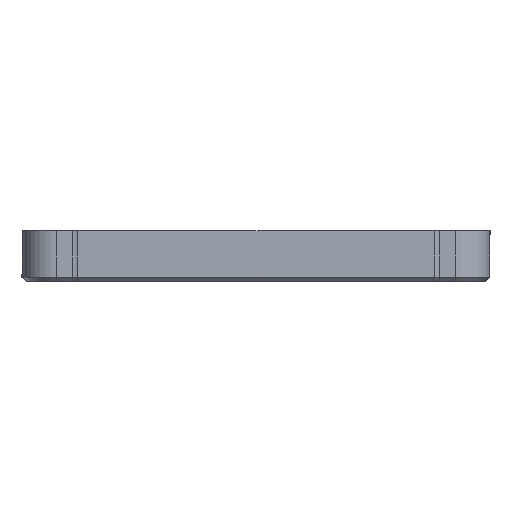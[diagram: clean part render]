
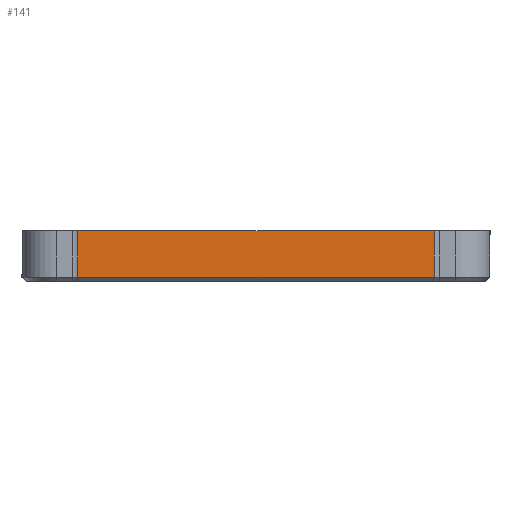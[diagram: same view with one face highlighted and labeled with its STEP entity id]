
A CAD part, front view. The second image highlights one B-rep face of the part: STEP entity #141.
In plain terms, the highlighted planar face has unit normal (0, -1, 0).
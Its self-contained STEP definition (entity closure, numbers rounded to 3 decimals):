
#12 = VERTEX_POINT ( 'NONE', #347 ) ;
#46 = EDGE_LOOP ( 'NONE', ( #1041, #608, #1773, #1890 ) ) ;
#100 = DIRECTION ( 'NONE',  ( -1., 0., 0. ) ) ;
#110 = DIRECTION ( 'NONE',  ( 0., 0., 1. ) ) ;
#123 = VECTOR ( 'NONE', #110, 1000. ) ;
#141 = ADVANCED_FACE ( 'NONE', ( #1392 ), #1423, .F. ) ;
#169 = DIRECTION ( 'NONE',  ( -1., 0., 0. ) ) ;
#181 = CARTESIAN_POINT ( 'NONE',  ( -87.502, -165., 25. ) ) ;
#256 = DIRECTION ( 'NONE',  ( 1., 0., 0. ) ) ;
#271 = LINE ( 'NONE', #1435, #123 ) ;
#334 = CARTESIAN_POINT ( 'NONE',  ( 53., -165., 25. ) ) ;
#347 = CARTESIAN_POINT ( 'NONE',  ( 87.502, -165., 25. ) ) ;
#405 = LINE ( 'NONE', #1584, #1542 ) ;
#412 = VERTEX_POINT ( 'NONE', #181 ) ;
#608 = ORIENTED_EDGE ( 'NONE', *, *, #1203, .T. ) ;
#615 = EDGE_CURVE ( 'NONE', #1792, #412, #806, .T. ) ;
#806 = LINE ( 'NONE', #1015, #1367 ) ;
#860 = AXIS2_PLACEMENT_3D ( 'NONE', #1268, #1867, #100 ) ;
#903 = EDGE_CURVE ( 'NONE', #12, #412, #1210, .T. ) ;
#990 = VECTOR ( 'NONE', #169, 1000. ) ;
#1015 = CARTESIAN_POINT ( 'NONE',  ( -87.502, -165., 7. ) ) ;
#1041 = ORIENTED_EDGE ( 'NONE', *, *, #615, .F. ) ;
#1060 = CARTESIAN_POINT ( 'NONE',  ( 87.502, -165., 2. ) ) ;
#1203 = EDGE_CURVE ( 'NONE', #1792, #1243, #405, .T. ) ;
#1210 = LINE ( 'NONE', #334, #990 ) ;
#1243 = VERTEX_POINT ( 'NONE', #1060 ) ;
#1262 = CARTESIAN_POINT ( 'NONE',  ( -87.502, -165., 2. ) ) ;
#1268 = CARTESIAN_POINT ( 'NONE',  ( 42.502, -165., 7. ) ) ;
#1367 = VECTOR ( 'NONE', #1781, 1000. ) ;
#1392 = FACE_OUTER_BOUND ( 'NONE', #46, .T. ) ;
#1423 = PLANE ( 'NONE',  #860 ) ;
#1435 = CARTESIAN_POINT ( 'NONE',  ( 87.502, -165., 7. ) ) ;
#1461 = EDGE_CURVE ( 'NONE', #1243, #12, #271, .T. ) ;
#1542 = VECTOR ( 'NONE', #256, 1000. ) ;
#1584 = CARTESIAN_POINT ( 'NONE',  ( 42.502, -165., 2. ) ) ;
#1773 = ORIENTED_EDGE ( 'NONE', *, *, #1461, .T. ) ;
#1781 = DIRECTION ( 'NONE',  ( 0., 0., 1. ) ) ;
#1792 = VERTEX_POINT ( 'NONE', #1262 ) ;
#1867 = DIRECTION ( 'NONE',  ( 0., 1., 0. ) ) ;
#1890 = ORIENTED_EDGE ( 'NONE', *, *, #903, .T. ) ;
